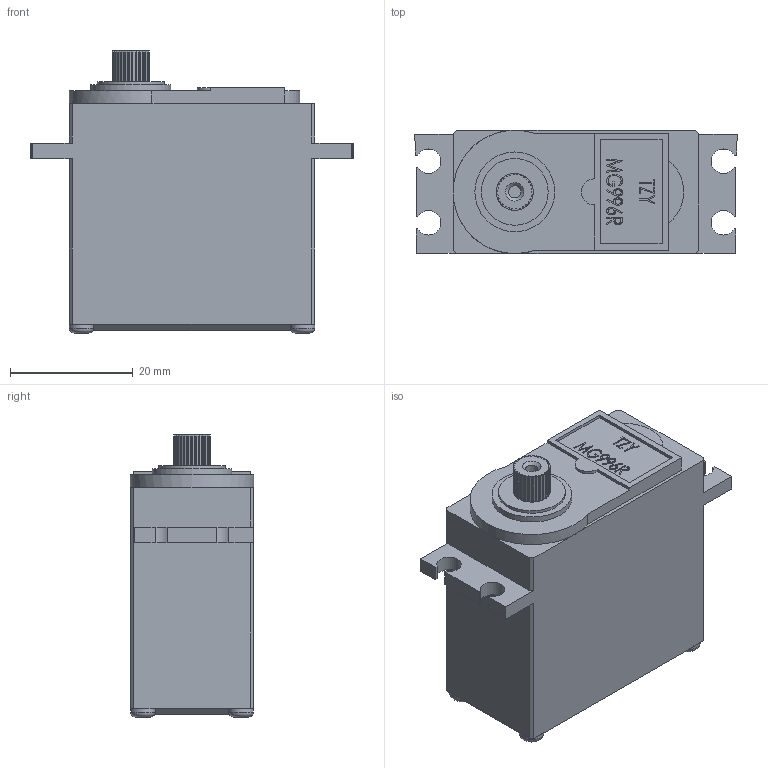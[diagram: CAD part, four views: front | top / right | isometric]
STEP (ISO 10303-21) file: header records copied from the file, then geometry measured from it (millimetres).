
FILE_DESCRIPTION(('FreeCAD Model'),'2;1');
FILE_NAME('Open CASCADE Shape Model','2023-05-06T18:44:57',('Author'),( ''),'Open CASCADE STEP processor 7.5','FreeCAD','Unknown');
FILE_SCHEMA(('AUTOMOTIVE_DESIGN { 1 0 10303 214 1 1 1 1 }'));
Length unit declared in the file: millimetre
Products named in the file (4): servomotor_TZY MGR996R; pan head tapping screw_am_PHT 2x4x3.6-type I-D-N; servo_privod; shtift
Assembly tree (6 placements, depth 2):
  servomotor_TZY MGR996R
    servo_privod
    shtift
    pan head tapping screw_am_PHT 2x4x3.6-type I-D-N  x4
Bounding box: 52.46 x 20.07 x 45.9 mm (x, y, z)
Volume: 12378.4 mm3; surface area: 12056.6 mm2
Topology: 6 solids, 6 shells, 491 faces, 1322 edges, 870 vertices
Faces by surface type: plane 401, bspline 41, cylinder 32, cone 9, torus 8
Full cylindrical faces by diameter (mm): 1 x4, 1.6 x4, 2 x5, 4 x4, 6 x2, 10.862 x1, 13 x1
Entity records: 17213 total; most frequent: CARTESIAN_POINT 4830, ORIENTED_EDGE 2150, DIRECTION 1841, EDGE_CURVE 1075, LINE 875, VECTOR 875, VERTEX_POINT 720, AXIS2_PLACEMENT_3D 483
